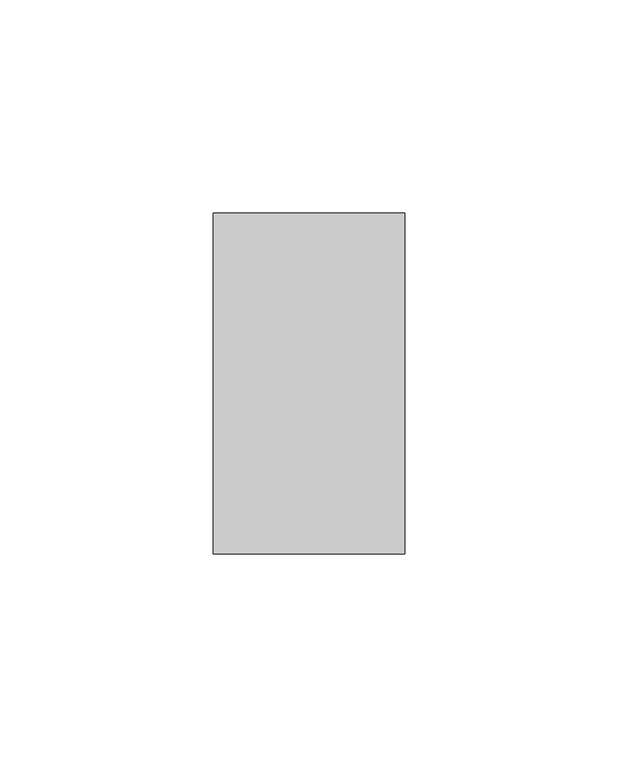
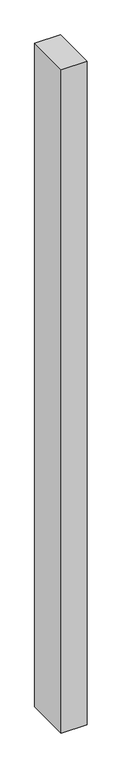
"""IFC4 building model written with IfcOpenShell, lengths in millimetres: member geometry, Obdélníková příčel : VERTI ELEMENT - vertikální."""

from ifc_helpers import new_model, si_unit, frame, origin, place, context, project, spatial, polyline, outline, extrude, source, transform, mapped, element, save


def member_a9953260(model_context):
    return source(origin(), model_context, "Body", "SweptSolid", [
        extrude(outline(polyline([(-45.0, 40.0), (0.0, 40.0), (0.0, -40.0), (-45.0, -40.0), (-45.0, 40.0)])), frame((0.0, 0.0, -1222.5), z_axis=(0.0, 0.0, 1.0), x_axis=(1.0, 0.0, 0.0)), (0.0, 0.0, 1.0), 1222.5),
    ])


if __name__ == "__main__":
    model = new_model("IFC4")
    model_context = context("Model", 3, world=origin())
    ifc_project = project(units=[si_unit("LENGTHUNIT", "METRE", prefix="MILLI")], contexts=[model_context])
    site = spatial("IfcSite", under=ifc_project)
    building = spatial("IfcBuilding", under=site)
    placement = place(None, origin())
    member_shape = member_a9953260(model_context)
    element("IfcMember", 1, ObjectType="Obdélníková příčel : VERTI ELEMENT - vertikální", at=placement, inside=building, context=model_context, shape_type="MappedRepresentation", body=[
        mapped(member_shape, transform((0.0, 0.0, 0.0), x_axis=(1.0, 0.0, 0.0), y_axis=(0.0, 1.0, 0.0), z_axis=(0.0, 0.0, 1.0))),
    ])
    save(model, "model.ifc")
